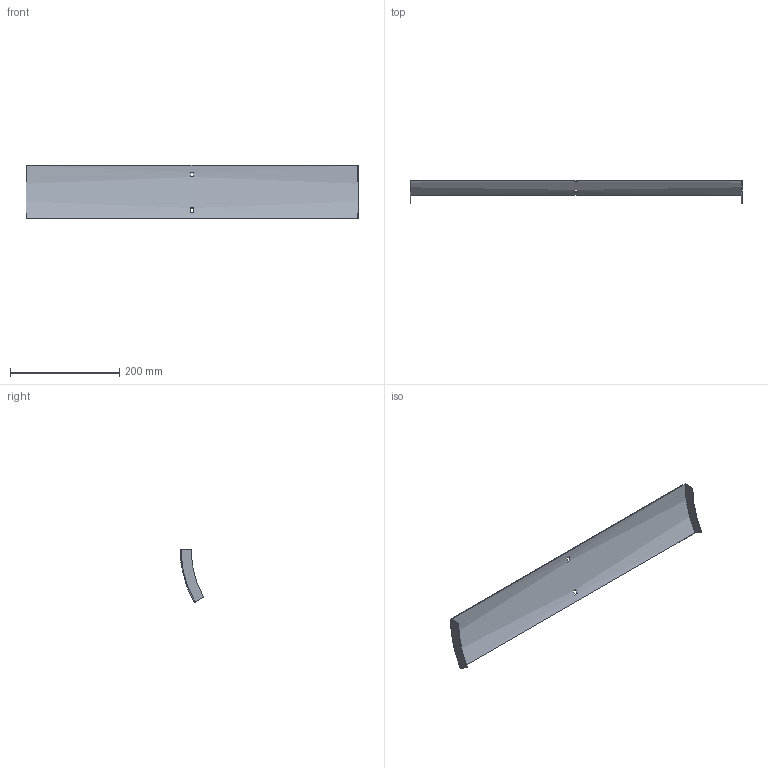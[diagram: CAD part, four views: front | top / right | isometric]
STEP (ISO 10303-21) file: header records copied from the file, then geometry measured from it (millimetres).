
FILE_DESCRIPTION (( 'STEP AP214' ), '1' );
FILE_NAME ('35N1I600.step', '2025-02-21T09:13:45', ( '' ), ( '' ), 'SwSTEP 2.0', 'SolidWorks 2023', '' );
FILE_SCHEMA (( 'AUTOMOTIVE_DESIGN' ));
Length unit declared in the file: millimetre
Products named in the file (1): 35N1I600
Bounding box: 607 x 43.31 x 97 mm (x, y, z)
Volume: 97278.4 mm3; surface area: 132004.4 mm2
Topology: 1 solids, 1 shells, 18 faces, 48 edges, 32 vertices
Faces by surface type: plane 14, cylinder 4
Entity records: 599 total; most frequent: DIRECTION 102, CARTESIAN_POINT 99, ORIENTED_EDGE 96, EDGE_CURVE 48, AXIS2_PLACEMENT_3D 35, LINE 32, VECTOR 32, VERTEX_POINT 32
